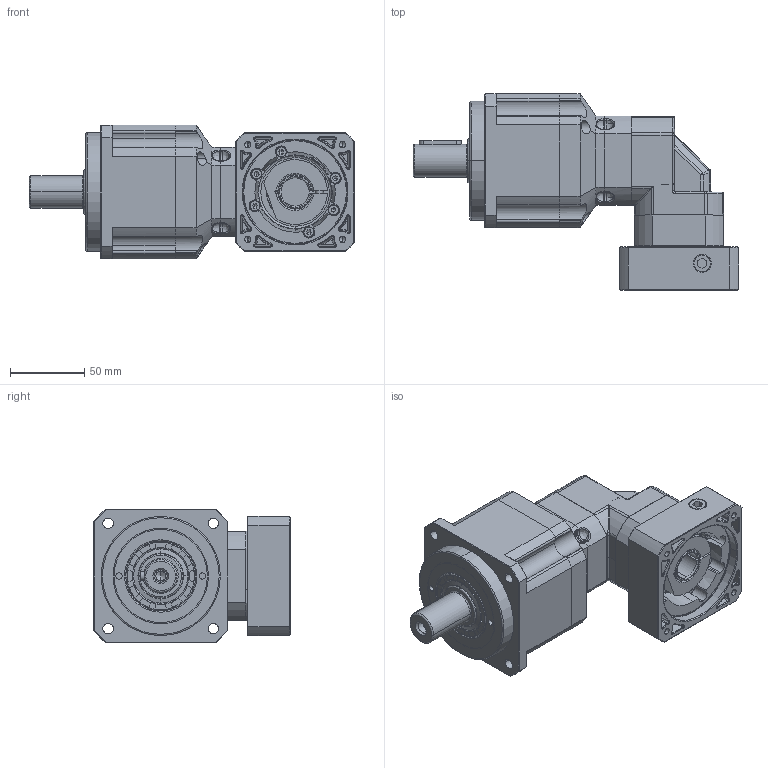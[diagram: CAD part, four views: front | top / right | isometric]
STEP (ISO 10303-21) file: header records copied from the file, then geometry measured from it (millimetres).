
FILE_DESCRIPTION (( 'STEP AP214' ), '1' );
FILE_NAME ('PAR090-L2-S2-P1 19-70-90-M5-42.5.STEP', '2025-02-15T05:57:01', ( '微软用户' ), ( '微软中国' ), 'SwSTEP 2.0', 'SolidWorks 2021', '' );
FILE_SCHEMA (( 'AUTOMOTIVE_DESIGN' ));
Length unit declared in the file: millimetre
Products named in the file (4): PAR090M1-L2-S2-19-70-90-M5-42.5.STEP; PAR090D.STEP; PAR090-L2-S2-P1 19-70-90-M5-42.5; 2.PAR060F__________step_stp_stp.stp.STEP
Assembly tree (4 placements, depth 2):
  PAR090-L2-S2-P1 19-70-90-M5-42.5
    PAR090M1-L2-S2-19-70-90-M5-42.5.STEP
    2.PAR060F__________step_stp_stp.stp.STEP
    PAR090D.STEP  x2
Bounding box: 218.5 x 132 x 90 mm (x, y, z)
Volume: 79241.2 mm3; surface area: 186770.7 mm2
Topology: 7 solids, 48 shells, 1695 faces, 4171 edges, 2591 vertices
Faces by surface type: cylinder 614, plane 475, bspline 339, cone 258, torus 9
Entity records: 85166 total; most frequent: CARTESIAN_POINT 48312, ORIENTED_EDGE 7936, DIRECTION 7083, EDGE_CURVE 4020, AXIS2_PLACEMENT_3D 2840, VERTEX_POINT 2545, EDGE_LOOP 1840, ADVANCED_FACE 1666
